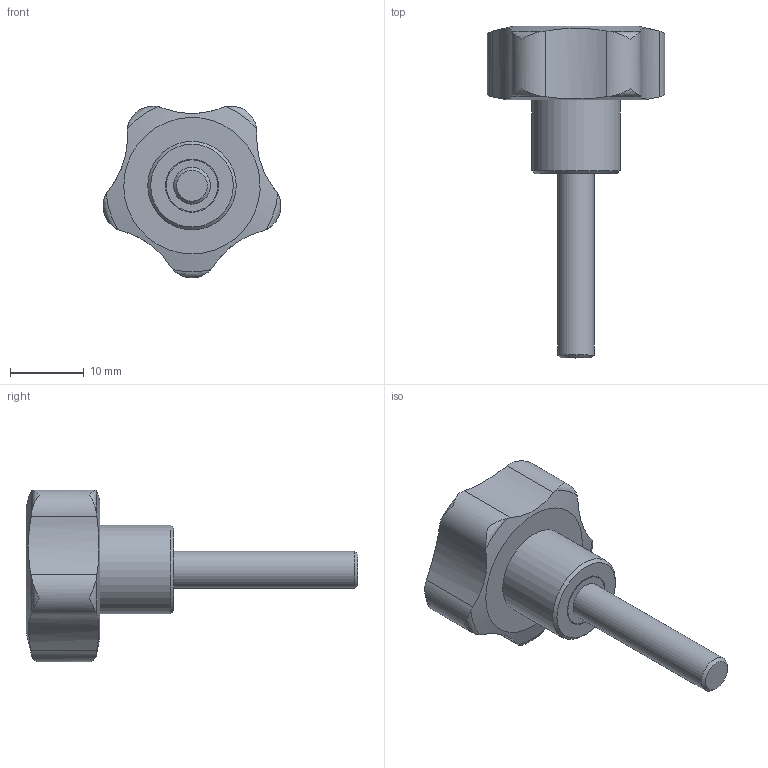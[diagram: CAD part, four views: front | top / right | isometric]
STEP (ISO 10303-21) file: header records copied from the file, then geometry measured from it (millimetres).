
FILE_DESCRIPTION( ( 'STEP AP203' ), '1' );
FILE_NAME( 'C:/Temp/Ganter_Step_05_03_2020/data/2_2/gn_5337_4/gn_5337_4_s/Star knob GN 5337.4-25-M5-25.stp', '2020-03-05T12:09:39', ( 'License CC BY-ND 4.0' ), ( 'CADENAS' ), ' ', 'PARTsolutions', ' ' );
FILE_SCHEMA( ( 'CONFIG_CONTROL_DESIGN' ) );
Length unit declared in the file: millimetre
Products named in the file (1): _Star knob GN 5337.4-25-M5-25
Bounding box: 24.11 x 45 x 23.28 mm (x, y, z)
Volume: 5305.9 mm3; surface area: 2217.3 mm2
Topology: 1 solids, 1 shells, 34 faces, 95 edges, 66 vertices
Faces by surface type: cylinder 14, torus 10, plane 5, cone 3, bspline 1, sphere 1
Full cylindrical faces by diameter (mm): 5 x1, 7 x1, 7.2 x1, 12 x1
Entity records: 1417 total; most frequent: CARTESIAN_POINT 629, ORIENTED_EDGE 164, DIRECTION 122, EDGE_CURVE 82, VERTEX_POINT 63, AXIS2_PLACEMENT_3D 56, B_SPLINE_CURVE_WITH_KNOTS 50, EDGE_LOOP 46
